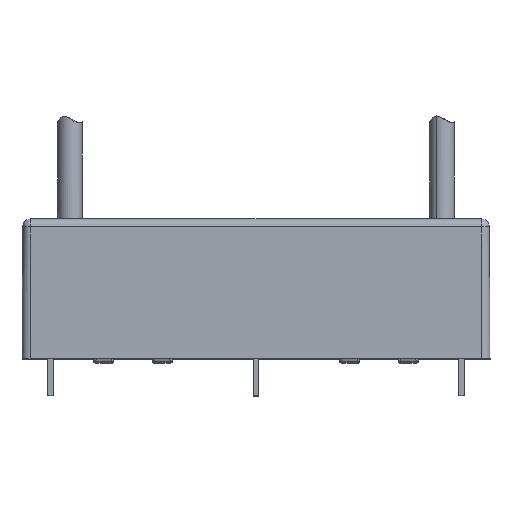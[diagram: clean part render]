
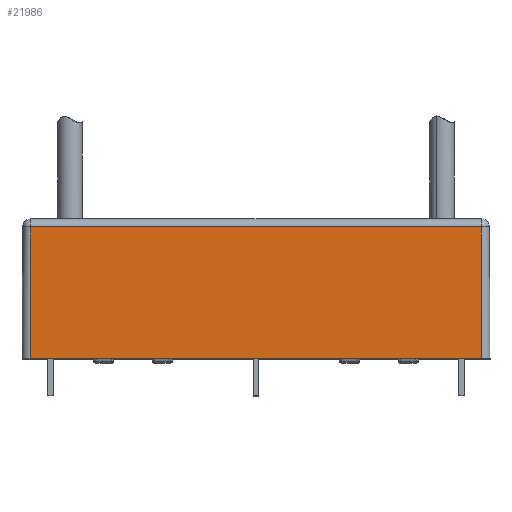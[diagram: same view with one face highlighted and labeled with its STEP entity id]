
A CAD part, top view. The second image highlights one B-rep face of the part: STEP entity #21986.
In plain terms, the highlighted planar face has unit normal (0, 0.006, 1).
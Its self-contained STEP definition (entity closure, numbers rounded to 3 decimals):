
#1024 = VECTOR ( 'NONE', #25043, 1000. ) ;
#2754 = ORIENTED_EDGE ( 'NONE', *, *, #27964, .T. ) ;
#3301 = DIRECTION ( 'NONE',  ( -1., 0., 0. ) ) ;
#4729 = VECTOR ( 'NONE', #5409, 1000. ) ;
#5267 = LINE ( 'NONE', #22896, #4729 ) ;
#5409 = DIRECTION ( 'NONE',  ( 1., 0., 0. ) ) ;
#5779 = CARTESIAN_POINT ( 'NONE',  ( -28.925, 8.85, 7.975 ) ) ;
#5910 = DIRECTION ( 'NONE',  ( 0., -1., 0.006 ) ) ;
#6001 = VERTEX_POINT ( 'NONE', #26114 ) ;
#8350 = FACE_OUTER_BOUND ( 'NONE', #22626, .T. ) ;
#9570 = CARTESIAN_POINT ( 'NONE',  ( -28.925, 25.156, 7.884 ) ) ;
#10514 = EDGE_CURVE ( 'NONE', #22770, #6001, #25767, .T. ) ;
#10595 = VECTOR ( 'NONE', #21516, 1000. ) ;
#12027 = EDGE_CURVE ( 'NONE', #6001, #15528, #22214, .T. ) ;
#12828 = CARTESIAN_POINT ( 'NONE',  ( 27.923, 9.167, 7.973 ) ) ;
#13067 = CARTESIAN_POINT ( 'NONE',  ( 27.925, 8.85, 7.975 ) ) ;
#13289 = VECTOR ( 'NONE', #3301, 1000. ) ;
#13665 = CARTESIAN_POINT ( 'NONE',  ( -27.925, 8.85, 7.975 ) ) ;
#14938 = CARTESIAN_POINT ( 'NONE',  ( -27.834, 25.156, 7.884 ) ) ;
#15528 = VERTEX_POINT ( 'NONE', #14938 ) ;
#15938 = ORIENTED_EDGE ( 'NONE', *, *, #21458, .T. ) ;
#16374 = LINE ( 'NONE', #25331, #1024 ) ;
#17006 = AXIS2_PLACEMENT_3D ( 'NONE', #5779, #23126, #5910 ) ;
#18740 = PLANE ( 'NONE',  #17006 ) ;
#18926 = ORIENTED_EDGE ( 'NONE', *, *, #12027, .T. ) ;
#19468 = VERTEX_POINT ( 'NONE', #13665 ) ;
#21458 = EDGE_CURVE ( 'NONE', #19468, #22770, #5267, .T. ) ;
#21516 = DIRECTION ( 'NONE',  ( -0.006, 1., -0.006 ) ) ;
#21986 = ADVANCED_FACE ( 'NONE', ( #8350 ), #18740, .T. ) ;
#22214 = LINE ( 'NONE', #9570, #13289 ) ;
#22626 = EDGE_LOOP ( 'NONE', ( #24468, #18926, #2754, #15938 ) ) ;
#22770 = VERTEX_POINT ( 'NONE', #13067 ) ;
#22896 = CARTESIAN_POINT ( 'NONE',  ( -28.925, 8.85, 7.975 ) ) ;
#23126 = DIRECTION ( 'NONE',  ( 0., 0.006, 1. ) ) ;
#24468 = ORIENTED_EDGE ( 'NONE', *, *, #10514, .T. ) ;
#25043 = DIRECTION ( 'NONE',  ( -0.006, -1., 0.006 ) ) ;
#25331 = CARTESIAN_POINT ( 'NONE',  ( -27.925, 8.844, 7.975 ) ) ;
#25767 = LINE ( 'NONE', #12828, #10595 ) ;
#26114 = CARTESIAN_POINT ( 'NONE',  ( 27.834, 25.156, 7.884 ) ) ;
#27964 = EDGE_CURVE ( 'NONE', #15528, #19468, #16374, .T. ) ;
